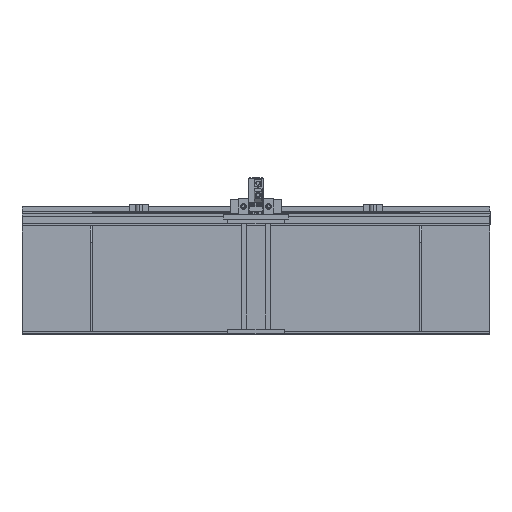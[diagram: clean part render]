
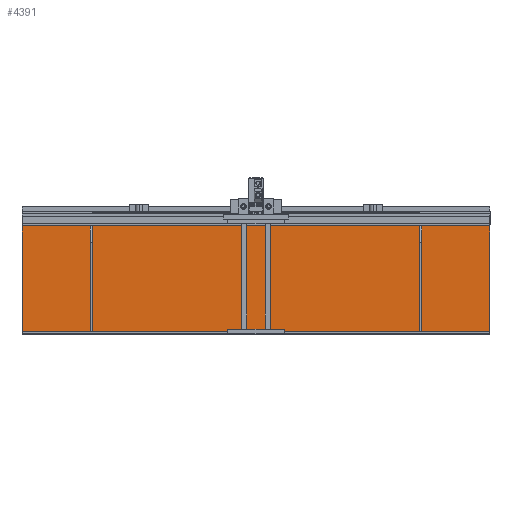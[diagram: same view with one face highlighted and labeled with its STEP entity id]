
A CAD part, top view. The second image highlights one B-rep face of the part: STEP entity #4391.
In plain terms, the highlighted planar face has unit normal (0, 0, 1).
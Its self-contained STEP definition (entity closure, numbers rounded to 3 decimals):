
#200 = CARTESIAN_POINT ( 'NONE',  ( 354.5, 220.5, 143. ) ) ;
#451 = CARTESIAN_POINT ( 'NONE',  ( -500., 4.5, 143. ) ) ;
#557 = VERTEX_POINT ( 'NONE', #18627 ) ;
#780 = DIRECTION ( 'NONE',  ( 0., 1., 0. ) ) ;
#882 = FACE_OUTER_BOUND ( 'NONE', #6361, .T. ) ;
#898 = DIRECTION ( 'NONE',  ( 0., 1., 0. ) ) ;
#1112 = CARTESIAN_POINT ( 'NONE',  ( -354.5, 14.5, 143. ) ) ;
#1174 = LINE ( 'NONE', #18389, #12852 ) ;
#1334 = VERTEX_POINT ( 'NONE', #16688 ) ;
#1407 = DIRECTION ( 'NONE',  ( -1., 0., 0. ) ) ;
#1812 = EDGE_CURVE ( 'NONE', #5959, #10525, #7762, .T. ) ;
#2059 = EDGE_LOOP ( 'NONE', ( #11063, #6446, #15064, #4516 ) ) ;
#2310 = CARTESIAN_POINT ( 'NONE',  ( -500., 4.5, 143. ) ) ;
#2423 = EDGE_CURVE ( 'NONE', #1334, #557, #20266, .T. ) ;
#2893 = CARTESIAN_POINT ( 'NONE',  ( -350., 14.5, 143. ) ) ;
#2971 = VECTOR ( 'NONE', #5627, 1000. ) ;
#3166 = CARTESIAN_POINT ( 'NONE',  ( 350., 14.5, 143. ) ) ;
#3884 = EDGE_CURVE ( 'NONE', #27136, #24362, #16438, .T. ) ;
#3986 = DIRECTION ( 'NONE',  ( 1., 0., 0. ) ) ;
#4042 = LINE ( 'NONE', #8126, #24620 ) ;
#4391 = ADVANCED_FACE ( 'NONE', ( #882, #9481, #18099 ), #5968, .T. ) ;
#4516 = ORIENTED_EDGE ( 'NONE', *, *, #2423, .F. ) ;
#4782 = DIRECTION ( 'NONE',  ( 0., 1., 0. ) ) ;
#4917 = LINE ( 'NONE', #9277, #8602 ) ;
#4961 = DIRECTION ( 'NONE',  ( 1., 0., 0. ) ) ;
#5626 = ORIENTED_EDGE ( 'NONE', *, *, #11384, .T. ) ;
#5627 = DIRECTION ( 'NONE',  ( 1., 0., 0. ) ) ;
#5851 = CARTESIAN_POINT ( 'NONE',  ( 350., 220.5, 143. ) ) ;
#5959 = VERTEX_POINT ( 'NONE', #16233 ) ;
#5968 = PLANE ( 'NONE',  #18674 ) ;
#6361 = EDGE_LOOP ( 'NONE', ( #10450, #26521, #14593, #5626 ) ) ;
#6446 = ORIENTED_EDGE ( 'NONE', *, *, #9611, .T. ) ;
#6596 = CARTESIAN_POINT ( 'NONE',  ( 354.5, 220.5, 143. ) ) ;
#6832 = VECTOR ( 'NONE', #1407, 1000. ) ;
#6938 = LINE ( 'NONE', #10890, #20432 ) ;
#7736 = ORIENTED_EDGE ( 'NONE', *, *, #1812, .T. ) ;
#7762 = LINE ( 'NONE', #16380, #6832 ) ;
#8126 = CARTESIAN_POINT ( 'NONE',  ( -500., 230.5, 143. ) ) ;
#8191 = CARTESIAN_POINT ( 'NONE',  ( 500., 230.5, 143. ) ) ;
#8602 = VECTOR ( 'NONE', #4782, 1000. ) ;
#8793 = DIRECTION ( 'NONE',  ( -1., 0., 0. ) ) ;
#8920 = LINE ( 'NONE', #451, #9942 ) ;
#9057 = VERTEX_POINT ( 'NONE', #19111 ) ;
#9277 = CARTESIAN_POINT ( 'NONE',  ( 350., 220.5, 143. ) ) ;
#9481 = FACE_BOUND ( 'NONE', #10436, .T. ) ;
#9611 = EDGE_CURVE ( 'NONE', #26020, #9057, #6938, .T. ) ;
#9706 = LINE ( 'NONE', #1112, #2971 ) ;
#9942 = VECTOR ( 'NONE', #4961, 1000. ) ;
#10071 = CARTESIAN_POINT ( 'NONE',  ( -500., 230.5, 143. ) ) ;
#10436 = EDGE_LOOP ( 'NONE', ( #14073, #11520, #7736, #19357 ) ) ;
#10450 = ORIENTED_EDGE ( 'NONE', *, *, #25085, .T. ) ;
#10474 = DIRECTION ( 'NONE',  ( 0., 0., 1. ) ) ;
#10525 = VERTEX_POINT ( 'NONE', #3166 ) ;
#10890 = CARTESIAN_POINT ( 'NONE',  ( -354.5, 14.5, 143. ) ) ;
#11063 = ORIENTED_EDGE ( 'NONE', *, *, #19937, .F. ) ;
#11089 = LINE ( 'NONE', #19724, #26486 ) ;
#11384 = EDGE_CURVE ( 'NONE', #13756, #25830, #8920, .T. ) ;
#11520 = ORIENTED_EDGE ( 'NONE', *, *, #19059, .F. ) ;
#11669 = VECTOR ( 'NONE', #23774, 1000. ) ;
#12025 = VERTEX_POINT ( 'NONE', #6596 ) ;
#12169 = DIRECTION ( 'NONE',  ( -1., 0., 0. ) ) ;
#12765 = CARTESIAN_POINT ( 'NONE',  ( 500., 230.5, 143. ) ) ;
#12852 = VECTOR ( 'NONE', #898, 1000. ) ;
#13683 = VECTOR ( 'NONE', #12169, 1000. ) ;
#13756 = VERTEX_POINT ( 'NONE', #2310 ) ;
#14073 = ORIENTED_EDGE ( 'NONE', *, *, #23865, .F. ) ;
#14593 = ORIENTED_EDGE ( 'NONE', *, *, #20465, .T. ) ;
#14994 = CARTESIAN_POINT ( 'NONE',  ( 0., 117.5, 143. ) ) ;
#15064 = ORIENTED_EDGE ( 'NONE', *, *, #21261, .T. ) ;
#15276 = VECTOR ( 'NONE', #8793, 1000. ) ;
#15908 = EDGE_CURVE ( 'NONE', #10525, #24870, #4917, .T. ) ;
#16233 = CARTESIAN_POINT ( 'NONE',  ( 354.5, 14.5, 143. ) ) ;
#16380 = CARTESIAN_POINT ( 'NONE',  ( 354.5, 14.5, 143. ) ) ;
#16438 = LINE ( 'NONE', #10071, #13683 ) ;
#16688 = CARTESIAN_POINT ( 'NONE',  ( -350., 14.5, 143. ) ) ;
#16873 = LINE ( 'NONE', #12765, #11669 ) ;
#17525 = DIRECTION ( 'NONE',  ( 0., 1., 0. ) ) ;
#18099 = FACE_BOUND ( 'NONE', #2059, .T. ) ;
#18338 = CARTESIAN_POINT ( 'NONE',  ( 500., 4.5, 143. ) ) ;
#18389 = CARTESIAN_POINT ( 'NONE',  ( 354.5, 220.5, 143. ) ) ;
#18627 = CARTESIAN_POINT ( 'NONE',  ( -350., 220.5, 143. ) ) ;
#18674 = AXIS2_PLACEMENT_3D ( 'NONE', #14994, #10474, #3986 ) ;
#19059 = EDGE_CURVE ( 'NONE', #5959, #12025, #1174, .T. ) ;
#19111 = CARTESIAN_POINT ( 'NONE',  ( -354.5, 220.5, 143. ) ) ;
#19357 = ORIENTED_EDGE ( 'NONE', *, *, #15908, .T. ) ;
#19414 = DIRECTION ( 'NONE',  ( 0., -1., 0. ) ) ;
#19537 = LINE ( 'NONE', #200, #15276 ) ;
#19724 = CARTESIAN_POINT ( 'NONE',  ( -354.5, 220.5, 143. ) ) ;
#19937 = EDGE_CURVE ( 'NONE', #26020, #1334, #9706, .T. ) ;
#20266 = LINE ( 'NONE', #2893, #27192 ) ;
#20432 = VECTOR ( 'NONE', #17525, 1000. ) ;
#20465 = EDGE_CURVE ( 'NONE', #24362, #13756, #4042, .T. ) ;
#21261 = EDGE_CURVE ( 'NONE', #9057, #557, #11089, .T. ) ;
#22033 = CARTESIAN_POINT ( 'NONE',  ( -500., 230.5, 143. ) ) ;
#23583 = CARTESIAN_POINT ( 'NONE',  ( -354.5, 14.5, 143. ) ) ;
#23774 = DIRECTION ( 'NONE',  ( 0., 1., 0. ) ) ;
#23865 = EDGE_CURVE ( 'NONE', #12025, #24870, #19537, .T. ) ;
#24362 = VERTEX_POINT ( 'NONE', #22033 ) ;
#24620 = VECTOR ( 'NONE', #19414, 1000. ) ;
#24870 = VERTEX_POINT ( 'NONE', #5851 ) ;
#25085 = EDGE_CURVE ( 'NONE', #25830, #27136, #16873, .T. ) ;
#25551 = DIRECTION ( 'NONE',  ( 1., 0., 0. ) ) ;
#25830 = VERTEX_POINT ( 'NONE', #18338 ) ;
#26020 = VERTEX_POINT ( 'NONE', #23583 ) ;
#26486 = VECTOR ( 'NONE', #25551, 1000. ) ;
#26521 = ORIENTED_EDGE ( 'NONE', *, *, #3884, .T. ) ;
#27136 = VERTEX_POINT ( 'NONE', #8191 ) ;
#27192 = VECTOR ( 'NONE', #780, 1000. ) ;
